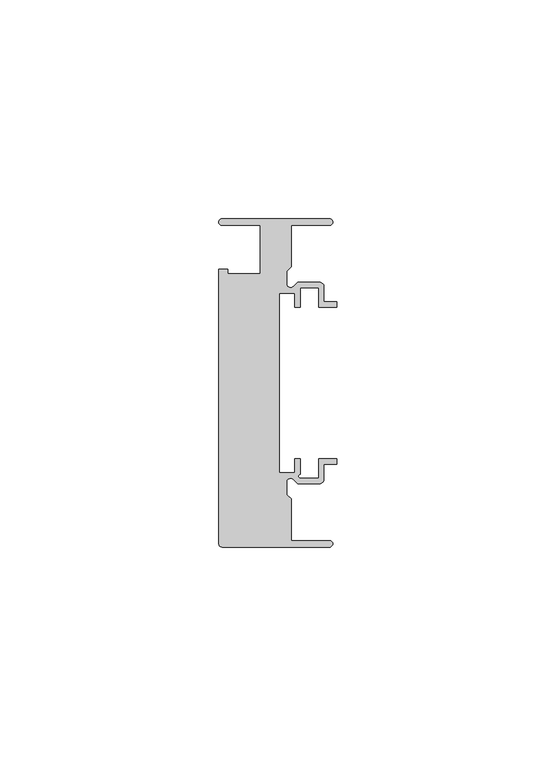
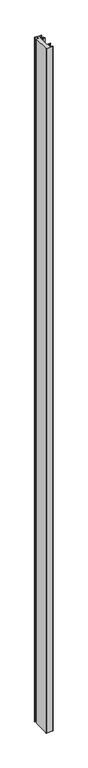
"""IFC4 building model written with IfcOpenShell, lengths in millimetres: member geometry, Прямоугольный импост : 5-AMG-1-Профиль 26Х75 Верх П."""

from ifc_helpers import new_model, si_unit, point, frame, frame_2d, origin, place, context, project, spatial, polyline, circle_curve, trimmed, segment, composite_curve, outline, extrude, source, transform, mapped, element, save


def member_4f9ec58e(model_context):
    return source(origin(), model_context, "Body", "SweptSolid", [
        extrude(outline(composite_curve([segment(trimmed(circle_curve(frame_2d((-1.7, 36.75)), 0.75), [point((-1.7, 37.5))], [point((-1.7, 36.0))], False, "CARTESIAN"), True, "CONTINUOUS"), segment(polyline([(-1.7, 36.0), (-10.5, 36.0), (-10.5, 26.5029437), (-11.5, 25.5029437), (-11.5, 22.6727922)]), True, "CONTINUOUS"), segment(trimmed(circle_curve(frame_2d((-10.6, 22.6727922)), 0.9), [point((-11.5, 22.6727922))], [point((-9.9636039, 22.0363961))], True, "CARTESIAN"), True, "CONTINUOUS"), segment(polyline([(-9.9636039, 22.0363961), (-9.0, 23.0), (-4.0, 23.0)]), True, "CONTINUOUS"), segment(trimmed(circle_curve(frame_2d((-4.0, 22.0)), 1.0), [point((-4.0, 23.0))], [point((-3.0, 22.0))], False, "CARTESIAN"), True, "CONTINUOUS"), segment(polyline([(-3.0, 22.0), (-3.0, 18.55), (0.0, 18.55), (0.0, 17.35), (-4.2, 17.35), (-4.2, 21.8), (-8.45, 21.8), (-8.45, 17.35), (-9.65, 17.35), (-9.65, 20.55), (-13.15, 20.55), (-13.15, -20.55), (-9.65, -20.55), (-9.65, -17.35), (-8.45, -17.35), (-8.45, -20.8470563)]), True, "CONTINUOUS"), segment(trimmed(circle_curve(frame_2d((-8.3343131, -21.3314262)), 0.4979937), [point((-8.45, -20.8470563))], [point((-8.5029437, -21.8))], True, "CARTESIAN"), True, "CONTINUOUS"), segment(polyline([(-8.5029437, -21.8), (-4.2, -21.8), (-4.2, -17.35), (0.0, -17.35), (0.0, -18.55), (-3.0, -18.55), (-3.0, -22.0)]), True, "CONTINUOUS"), segment(trimmed(circle_curve(frame_2d((-4.0, -22.0)), 1.0), [point((-3.0, -22.0))], [point((-4.0, -23.0))], False, "CARTESIAN"), True, "CONTINUOUS"), segment(polyline([(-4.0, -23.0), (-9.0, -23.0), (-9.9636039, -22.0363961)]), True, "CONTINUOUS"), segment(trimmed(circle_curve(frame_2d((-10.6, -22.6727922)), 0.9), [point((-9.9636039, -22.0363961))], [point((-11.5, -22.6727922))], True, "CARTESIAN"), True, "CONTINUOUS"), segment(polyline([(-11.5, -22.6727922), (-11.5, -25.5029437), (-10.5, -26.5029437), (-10.5, -36.0), (-1.7, -36.0)]), True, "CONTINUOUS"), segment(trimmed(circle_curve(frame_2d((-1.7, -36.75)), 0.75), [point((-1.7, -36.0))], [point((-1.7, -37.5))], False, "CARTESIAN"), True, "CONTINUOUS"), segment(polyline([(-1.7, -37.5), (-26.25, -37.5)]), True, "CONTINUOUS"), segment(trimmed(circle_curve(frame_2d((-26.2240507, -36.7244847)), 0.7759493), [point((-26.25, -37.5))], [point((-27.0, -36.7244847))], False, "CARTESIAN"), True, "CONTINUOUS"), segment(polyline([(-27.0, -36.7244847), (-27.0, 26.0), (-24.9359877, 26.0), (-24.9359877, 25.0), (-17.5, 25.0), (-17.5, 36.0), (-26.25, 36.0)]), True, "CONTINUOUS"), segment(trimmed(circle_curve(frame_2d((-26.25, 36.75)), 0.75), [point((-26.25, 36.0))], [point((-26.25, 37.5))], False, "CARTESIAN"), True, "CONTINUOUS"), segment(polyline([(-26.25, 37.5), (-1.7, 37.5)]), True, "CONTINUOUS")], self_intersect=False)), frame((0.0, 0.0, -2746.0), z_axis=(0.0, 0.0, 1.0), x_axis=(1.0, 0.0, 0.0)), (0.0, 0.0, 1.0), 2746.0),
    ])


if __name__ == "__main__":
    model = new_model("IFC4")
    model_context = context("Model", 3, world=origin())
    ifc_project = project(units=[si_unit("LENGTHUNIT", "METRE", prefix="MILLI")], contexts=[model_context])
    site = spatial("IfcSite", under=ifc_project)
    building = spatial("IfcBuilding", under=site)
    placement = place(None, origin())
    member_shape = member_4f9ec58e(model_context)
    element("IfcMember", 1, ObjectType="Прямоугольный импост : 5-AMG-1-Профиль 26Х75 Верх П", at=placement, inside=building, context=model_context, shape_type="MappedRepresentation", body=[
        mapped(member_shape, transform((0.0, 0.0, 0.0), x_axis=(1.0, 0.0, 0.0), y_axis=(0.0, 1.0, 0.0), z_axis=(0.0, 0.0, 1.0))),
    ])
    save(model, "model.ifc")
